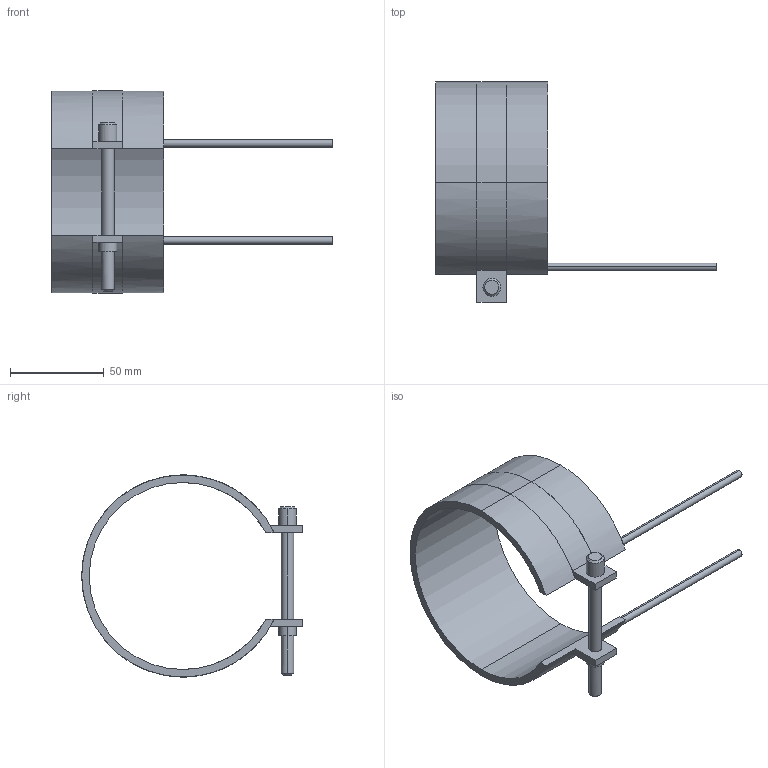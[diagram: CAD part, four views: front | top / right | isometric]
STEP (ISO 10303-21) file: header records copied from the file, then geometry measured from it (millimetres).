
FILE_DESCRIPTION(('CATIA V5 STEP Exchange'),'2;1');
FILE_NAME('C:\Users\Utente\Desktop\IO LAVORO\3D X SITO CF\X SITO\PLASTICA\RF2\14100060.stp','2021-04-06T16:01:02+00:00',('none'),('none'),'CATIA Version 5 Release 20 GA (IN-10)','CATIA V5 STEP AP203','none');
FILE_SCHEMA(('CONFIG_CONTROL_DESIGN'));
Length unit declared in the file: millimetre
Products named in the file (1): 14100060
Bounding box: 150 x 118.1 x 108.2 mm (x, y, z)
Volume: 75143.9 mm3; surface area: 41608.9 mm2
Topology: 1 solids, 1 shells, 45 faces, 116 edges, 76 vertices
Faces by surface type: cylinder 24, plane 17, cone 4
Entity records: 1400 total; most frequent: CARTESIAN_POINT 274, ORIENTED_EDGE 232, DIRECTION 196, EDGE_CURVE 116, AXIS2_PLACEMENT_3D 104, VERTEX_POINT 76, CIRCLE 62, VECTOR 52
